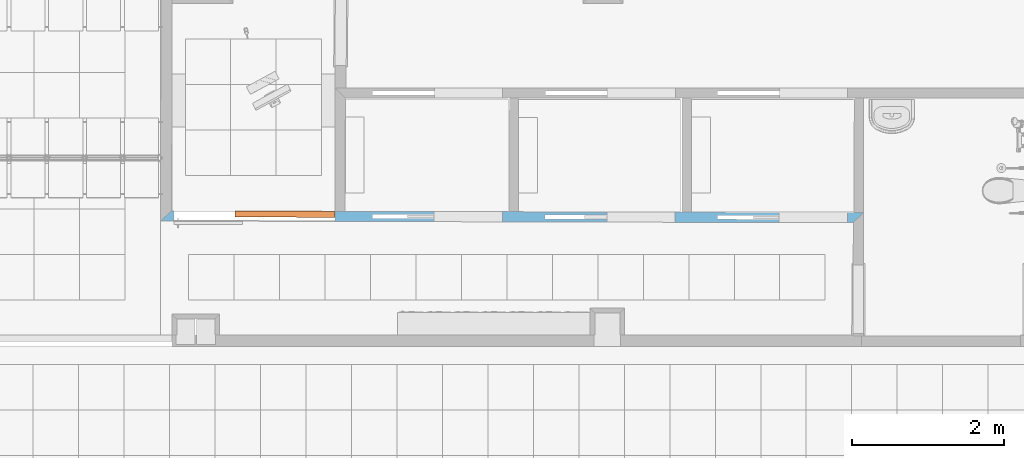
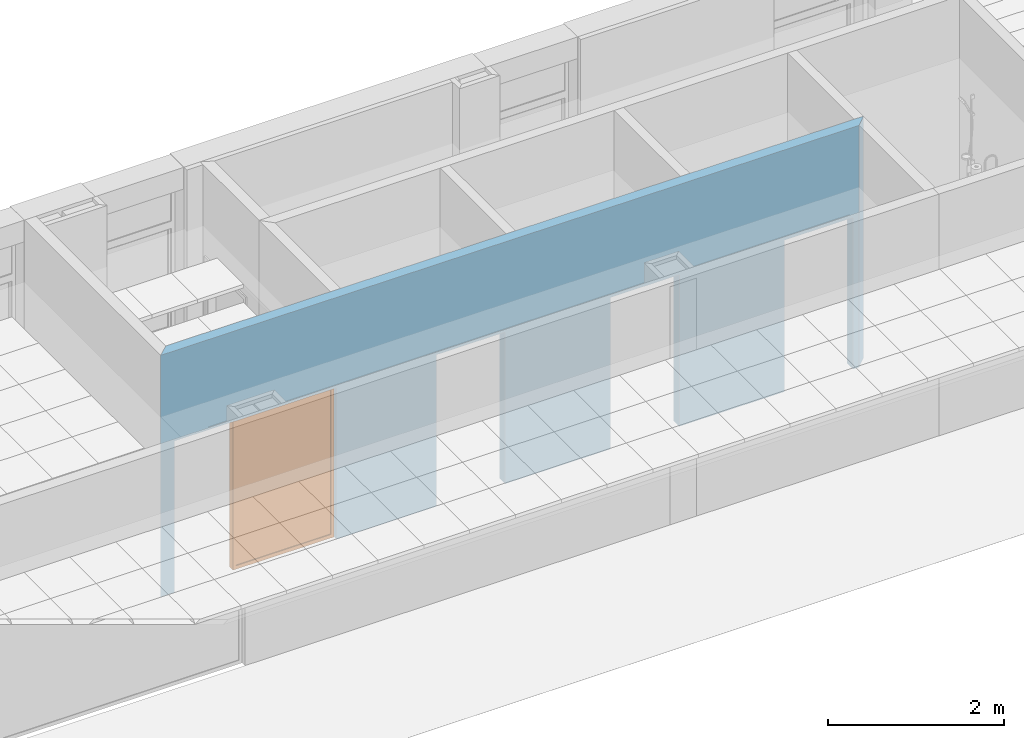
# One storey, part 51 of 68: 1 proxy, 5 openings, plus 1 element that does not belong to this part.
"""IFC2X3 building model written with IfcOpenShell, lengths in millimetres."""

from ifc_helpers import new_model, entity, si_unit, converted_unit, derived_unit, money_unit, direction, frame, origin_with_axes, origin_2d_with_axis, place, context, subcontext, project, spatial, polyline, rectangle, outline, extrude, faceted_brep, material, layer, layer_set, layer_usage, type_object, element, fill, save


model = new_model("IFC2X3")

# Units and contexts
model_context = context("Model", 3, precision=0.01, world=origin_with_axes(), true_north=direction((0.0, 1.0)))
body_context = subcontext(model_context, "Body", "Model", "MODEL_VIEW")
ifc_project = project(units=[si_unit("LENGTHUNIT", "METRE", prefix="MILLI"), si_unit("AREAUNIT", "SQUARE_METRE"), si_unit("VOLUMEUNIT", "CUBIC_METRE"), converted_unit("PLANEANGLEUNIT", "DEGREE", entity("IfcPlaneAngleMeasure", 0.0174532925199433), si_unit("PLANEANGLEUNIT", "RADIAN"), dimensions=[0, 0, 0, 0, 0, 0, 0]), money_unit("USD"), converted_unit("TIMEUNIT", "Year", entity("IfcTimeMeasure", 31557600.0), si_unit("TIMEUNIT", "SECOND"), dimensions=[0, 0, 1, 0, 0, 0, 0]), si_unit("MASSUNIT", "GRAM", prefix="KILO"), si_unit("THERMODYNAMICTEMPERATUREUNIT", "DEGREE_CELSIUS"), si_unit("LUMINOUSINTENSITYUNIT", "LUMEN"), si_unit("ENERGYUNIT", "JOULE", prefix="MEGA"), derived_unit("THERMALCONDUCTANCEUNIT", [(si_unit("POWERUNIT", "WATT"), 1), (si_unit("LENGTHUNIT", "METRE"), -1), (si_unit("THERMODYNAMICTEMPERATUREUNIT", "KELVIN"), -1)]), derived_unit("SPECIFICHEATCAPACITYUNIT", [(si_unit("ENERGYUNIT", "JOULE"), 1), (si_unit("MASSUNIT", "GRAM", prefix="KILO"), -1), (si_unit("THERMODYNAMICTEMPERATUREUNIT", "KELVIN"), -1)]), derived_unit("MASSDENSITYUNIT", [(si_unit("MASSUNIT", "GRAM", prefix="KILO"), 1), (si_unit("VOLUMEUNIT", "CUBIC_METRE"), -1)])], contexts=[model_context])

# Site, building, storey
site_placement = place(None, origin_with_axes())
site = spatial("IfcSite", under=ifc_project, at=site_placement, Name="Sitio", CompositionType="ELEMENT")
building_placement = place(site_placement, origin_with_axes())
building = spatial("IfcBuilding", under=site, at=building_placement, Name="Construcción", CompositionType="ELEMENT")
storey_placement = place(building_placement, origin_with_axes())
storey = spatial("IfcBuildingStorey", under=building, at=storey_placement, Name="PLANTA 1ª", CompositionType="ELEMENT", Elevation=0.0)

# Wall, openings, proxy
ifc_material_1 = material(Name="ARQ_FU093_Panellat_HPL")
ifc_layer_1 = layer(ifc_material_1, 6.0, ventilated="UNKNOWN")
ifc_material_2 = material(Name="ARQ_EN271_Camara_Aire")
ifc_layer_2 = layer(ifc_material_2, 6.0, ventilated="UNKNOWN")
ifc_material_3 = material(Name="Panel de Yeso Laminado")
ifc_layer_3 = layer(ifc_material_3, 13.0, ventilated="UNKNOWN")
ifc_layer_4 = layer(ifc_material_3, 13.0, ventilated="UNKNOWN")
ifc_material_4 = material(Name="ARQ_AI033_Aillament_Llana_De_Roca")
ifc_layer_5 = layer(ifc_material_4, 70.0, ventilated="UNKNOWN")
ifc_material_5 = material(Name="ARQ_CG063_Guix_Laminat_Hydro")
ifc_layer_6 = layer(ifc_material_5, 13.0, ventilated="UNKNOWN")
ifc_layer_7 = layer(ifc_material_5, 13.0, ventilated="UNKNOWN")
ifc_layer_set = layer_set([ifc_layer_1, ifc_layer_2, ifc_layer_3, ifc_layer_4, ifc_layer_5, ifc_layer_6, ifc_layer_7], Name="CR Pladur 70 mixte HPL 1")
ifc_layer_usage = layer_usage(ifc_layer_set, "AXIS2", "NEGATIVE", 134.0)
wall_type = type_object("IfcWallType", Name="CR Pladur 70 mixte HPL 1 134", PredefinedType="NOTDEFINED")
wall_placement = place(storey_placement, frame((-3815.203960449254, -15319.85596186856, 0.0), z_axis=(0.0, 0.0, 1.0), x_axis=(-0.9999969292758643, 0.00247819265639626, 0.0)))
wall = element("IfcWallStandardCase", 1, at=wall_placement, inside=storey, type_object=wall_type, material=ifc_layer_usage, Name="MS-205", context=body_context, shape_type="SweptSolid", body=[
    extrude(outline(polyline([(0.0, 0.0), (9127.922565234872, 0.0), (9273.788624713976, 134.0000000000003), (133.7671565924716, 133.9999999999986), (0.0, 0.0)])), origin_with_axes(), (0.0, 0.0, 1.0), 3350.0),
])
opening_1_placement = place(wall_placement, frame((7633.47607467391, 0.0, 0.0), z_axis=(0.0, 0.0, 1.0), x_axis=(1.0, 0.0, 0.0)))
opening_1 = element("IfcOpeningElement", 2, at=opening_1_placement, cuts=wall, Name="M-02", context=body_context, shape_type="SweptSolid", body=[
    extrude(rectangle(XDim=1320.757398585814, YDim=2100.0, at=origin_2d_with_axis()), frame((0.0, 134.0000000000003, 1050.0), z_axis=(0.0, -1.0, 0.0), x_axis=(1.0, 0.0, 0.0)), (0.0, 0.0, 1.0), 402.0),
])
opening_2_placement = place(wall_placement, frame((662.8618169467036, 0.0, 0.0), z_axis=(0.0, 0.0, 1.0), x_axis=(1.0, 0.0, 0.0)))
element("IfcOpeningElement", 3, at=opening_2_placement, cuts=wall, Name="P-01", context=body_context, shape_type="SweptSolid", body=[
    extrude(rectangle(XDim=900.0000000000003, YDim=2100.0, at=origin_2d_with_axis()), frame((0.0, -134.0000000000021, 1050.0), z_axis=(0.0, -1.0, 0.0), x_axis=(1.0, 0.0, 0.0)), (0.0, 0.0, -1.0), 402.0),
    extrude(rectangle(XDim=815.0000071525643, YDim=2070.0, at=origin_2d_with_axis()), frame((857.5000035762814, 41.99999999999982, 1035.0), z_axis=(0.0, -1.0, 0.0), x_axis=(1.0, 0.0, 0.0)), (0.0, 0.0, -1.0), 50.0),
])
opening_3_placement = place(wall_placement, frame((2935.015215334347, 0.0, 0.0), z_axis=(0.0, 0.0, 1.0), x_axis=(1.0, 0.0, 0.0)))
element("IfcOpeningElement", 4, at=opening_3_placement, cuts=wall, Name="P-01", context=body_context, shape_type="SweptSolid", body=[
    extrude(rectangle(XDim=900.0000000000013, YDim=2100.0, at=origin_2d_with_axis()), frame((0.0, -134.0000000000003, 1050.0), z_axis=(0.0, -1.0, 0.0), x_axis=(1.0, 0.0, 0.0)), (0.0, 0.0, -1.0), 402.0),
    extrude(rectangle(XDim=815.0000071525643, YDim=2070.0, at=origin_2d_with_axis()), frame((857.5000035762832, 41.99999999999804, 1035.0), z_axis=(0.0, -1.0, 0.0), x_axis=(1.0, 0.0, 0.0)), (0.0, 0.0, -1.0), 50.0),
])
opening_4_placement = place(wall_placement, frame((5215.251814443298, 0.0, 0.0), z_axis=(0.0, 0.0, 1.0), x_axis=(1.0, 0.0, 0.0)))
element("IfcOpeningElement", 5, at=opening_4_placement, cuts=wall, Name="P-01", context=body_context, shape_type="SweptSolid", body=[
    extrude(rectangle(XDim=899.9999999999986, YDim=2100.0, at=origin_2d_with_axis()), frame((0.0, -134.0000000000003, 1050.0), z_axis=(0.0, -1.0, 0.0), x_axis=(1.0, 0.0, 0.0)), (0.0, 0.0, -1.0), 402.0),
    extrude(rectangle(XDim=815.0000071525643, YDim=2070.0, at=origin_2d_with_axis()), frame((857.5000035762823, 41.99999999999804, 1035.0), z_axis=(0.0, -1.0, 0.0), x_axis=(1.0, 0.0, 0.0)), (0.0, 0.0, -1.0), 50.0),
])
opening_5_placement = place(wall_placement, frame((8643.85477396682, 0.0, 0.0), z_axis=(0.0, 0.0, 1.0), x_axis=(1.0, 0.0, 0.0)))
element("IfcOpeningElement", 6, at=opening_5_placement, cuts=wall, Name="PM-2", context=body_context, shape_type="SweptSolid", body=[
    extrude(rectangle(XDim=900.0000000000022, YDim=2100.0, at=origin_2d_with_axis()), frame((0.0, -134.0000000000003, 1050.0), z_axis=(0.0, -1.0, 0.0), x_axis=(-1.0, 0.0, 0.0)), (0.0, 0.0, -1.0), 402.0),
])
building_element_proxy_type = type_object("IfcBuildingElementProxyType", Name="Ventana Escaparate 27", PredefinedType="NOTDEFINED")
proxy_placement = place(opening_1_placement, frame((-660.3786992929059, 0.0, 0.0), z_axis=(0.0, 0.0, 1.0), x_axis=(1.0, 0.0, 0.0)))
proxy = element("IfcBuildingElementProxy", 7, at=proxy_placement, inside=storey, type_object=building_element_proxy_type, Name="M-02", context=body_context, shape_type="Brep", body=[
    faceted_brep([(0.0, 79.9999999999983, 2060.0), (0.0, 79.9999999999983, 49.99999999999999), (0.0, 0.0, 50.0), (0.0, 0.0, 2060.0), (39.99999999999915, 79.9999999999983, 2060.0), (39.99999999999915, 79.9999999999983, 49.99999999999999), (39.99999999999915, 0.0, 50.0), (39.99999999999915, 0.0, 2060.0)], [[[0, 1, 2, 3]], [[0, 4, 5, 1]], [[1, 5, 6, 2]], [[3, 2, 6, 7]], [[4, 0, 3, 7]], [[5, 4, 7, 6]]]),
    faceted_brep([(1320.757398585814, 79.99999999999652, 49.99999999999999), (1320.757398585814, 79.99999999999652, 2060.0), (1320.757398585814, 0.0, 2060.0), (1320.757398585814, 0.0, 50.0), (1280.757398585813, 80.00000000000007, 49.99999999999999), (1280.757398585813, 80.00000000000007, 2060.0), (1280.757398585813, 0.0, 2060.0), (1280.757398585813, 0.0, 50.0)], [[[0, 1, 2, 3]], [[0, 4, 5, 1]], [[1, 5, 6, 2]], [[3, 2, 6, 7]], [[4, 0, 3, 7]], [[5, 4, 7, 6]]]),
    faceted_brep([(1320.757398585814, 79.99999999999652, 2100.0), (0.0, 79.9999999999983, 2100.0), (0.0, 0.0, 2100.0), (1320.757398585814, 0.0, 2100.0), (1320.757398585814, 79.99999999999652, 2060.0), (1280.757398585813, 80.00000000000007, 2060.0), (39.99999999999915, 79.9999999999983, 2060.0), (0.0, 79.9999999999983, 2060.0), (0.0, 0.0, 2060.0), (39.99999999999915, 0.0, 2060.0), (1280.757398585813, 0.0, 2060.0), (1320.757398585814, 0.0, 2060.0)], [[[0, 1, 2, 3]], [[0, 4, 5, 6, 7, 1]], [[1, 7, 8, 2]], [[3, 2, 8, 9, 10, 11]], [[4, 0, 3, 11]], [[5, 4, 11, 10]], [[6, 5, 10, 9]], [[7, 6, 9, 8]]]),
    faceted_brep([(1320.757398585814, 79.99999999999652, 49.99999999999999), (1280.757398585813, 80.00000000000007, 49.99999999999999), (1280.757398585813, 0.0, 50.0), (1320.757398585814, 0.0, 50.0), (1320.757398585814, 79.99999999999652, 0.0), (0.0, 79.9999999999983, 0.0), (0.0, 79.9999999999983, 49.99999999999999), (39.99999999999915, 79.9999999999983, 49.99999999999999), (39.99999999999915, 0.0, 50.0), (0.0, 0.0, 50.0), (0.0, 0.0, 0.0), (1320.757398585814, 0.0, 0.0)], [[[0, 1, 2, 3]], [[0, 4, 5, 6, 7, 1]], [[1, 7, 8, 2]], [[3, 2, 8, 9, 10, 11]], [[4, 0, 3, 11]], [[5, 4, 11, 10]], [[6, 5, 10, 9]], [[7, 6, 9, 8]]]),
    faceted_brep([(40.00000000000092, 69.99999999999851, 49.99999999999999), (1280.757398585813, 69.99999999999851, 49.99999999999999), (1280.757398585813, 59.99999999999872, 49.99999999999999), (40.0000000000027, 59.99999999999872, 49.99999999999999), (40.00000000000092, 69.99999999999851, 2060.0), (1280.757398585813, 69.99999999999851, 2060.0), (1280.757398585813, 59.99999999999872, 2060.0), (40.0000000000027, 59.99999999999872, 2060.0)], [[[0, 1, 2, 3]], [[0, 4, 5, 1]], [[1, 5, 6, 2]], [[3, 2, 6, 7]], [[4, 0, 3, 7]], [[5, 4, 7, 6]]]),
])
fill(opening_1, proxy)

save(model, "model.ifc")
